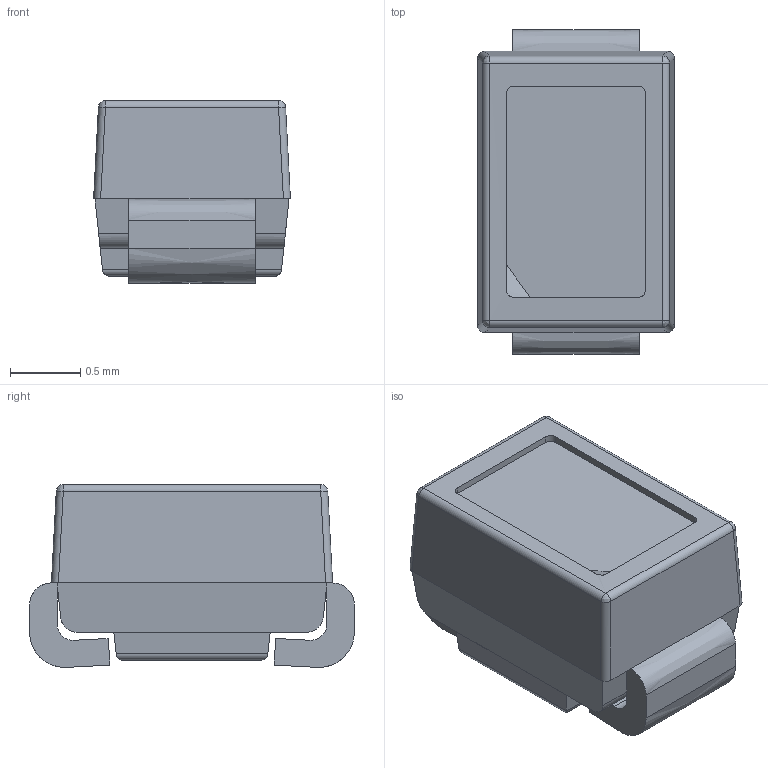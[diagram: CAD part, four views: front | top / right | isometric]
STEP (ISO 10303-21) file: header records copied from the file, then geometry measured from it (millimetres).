
FILE_DESCRIPTION (( 'STEP AP203' ), '1' );
FILE_NAME ('EOS-7AUWCR0-DD_A00.STEP', '2017-03-06T05:54:13', ( 'Sky123.Org' ), ( 'Sky123.Org' ), 'SwSTEP 2.0', 'SolidWorks 2012', '' );
FILE_SCHEMA (( 'CONFIG_CONTROL_DESIGN' ));
Length unit declared in the file: millimetre
Products named in the file (1): EOS-7AUWCR0-DD_A00
Bounding box: 1.4 x 2.31 x 1.3 mm (x, y, z)
Volume: 3.2 mm3; surface area: 17.5 mm2
Topology: 1 solids, 1 shells, 73 faces, 181 edges, 109 vertices
Faces by surface type: plane 39, cylinder 22, bspline 12
Entity records: 2607 total; most frequent: CARTESIAN_POINT 961, ORIENTED_EDGE 354, DIRECTION 277, EDGE_CURVE 177, LINE 113, VECTOR 113, VERTEX_POINT 109, AXIS2_PLACEMENT_3D 82
